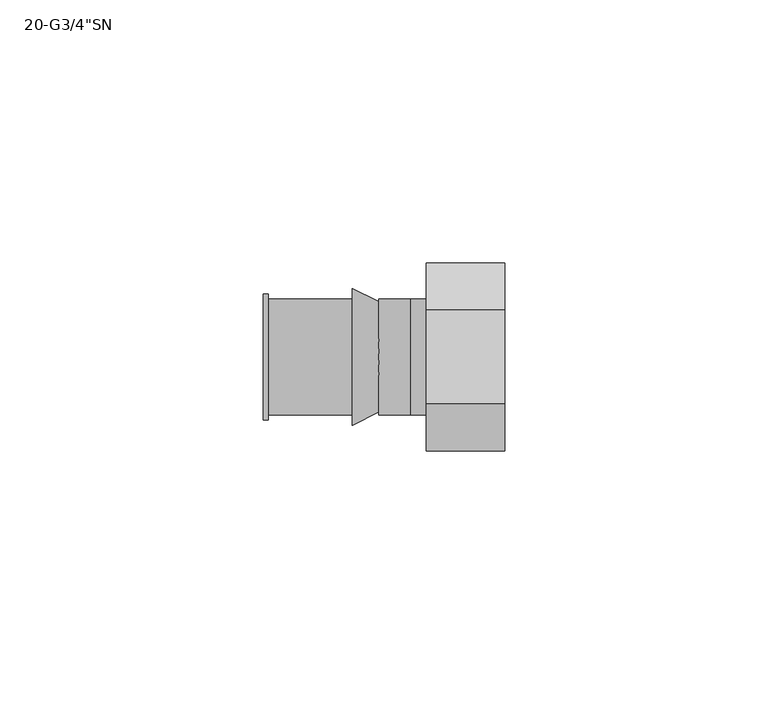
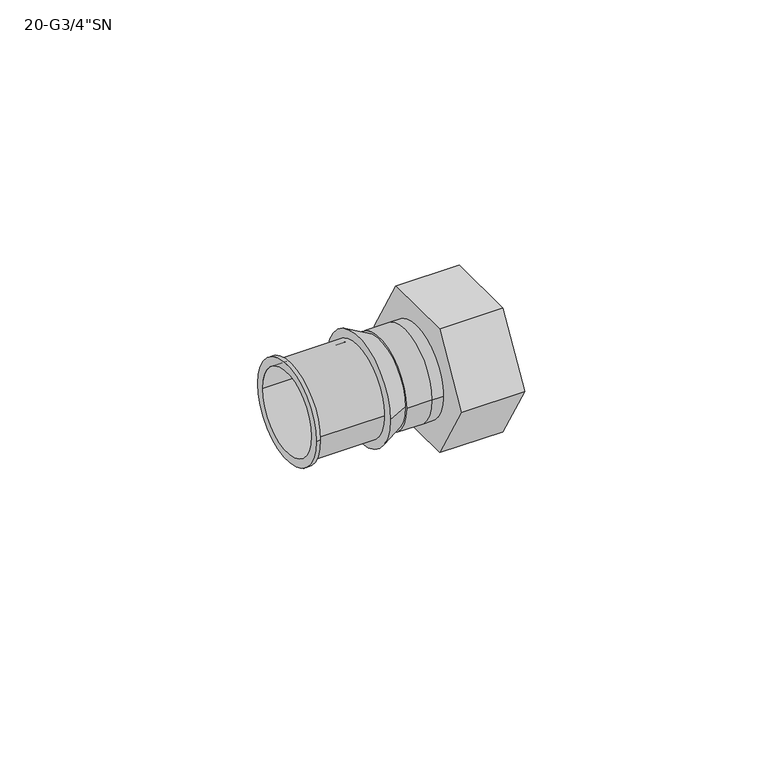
"""IFC4 building model written with IfcOpenShell, lengths in millimetres: pipe fitting geometry."""

from ifc_helpers import new_model, si_unit, frame, origin, place, context, project, spatial, polyline, circle_curve, source, transform, mapped, element, save
from ifc_brep_helpers import plane_surface, cylinder_surface, revolved_surface, advanced_brep


def pipe_fitting_98ce794a(model_context):
    return source(origin(), model_context, "Body", "AdvancedBrep", [
        advanced_brep(
        [(-3.0, -10.5, 0.0), (-3.0, 10.5, 0.0), (-3.0, -10.0, 0.0), (-3.0, 10.0, 0.0), (-8.0, -13.0, 0.0), (-8.0, 13.0, 0.0), (-8.0, 10.0, 0.0), (-8.0, -10.0, 0.0)],
        [
            (0, 1, circle_curve(frame((-3.0, 0.0, 0.0), z_axis=(1.0, 0.0, 0.0), x_axis=(0.0, -1.0, 0.0)), 10.5)),
            (1, 0, circle_curve(frame((-3.0, 0.0, 0.0), z_axis=(1.0, 0.0, 0.0), x_axis=(0.0, 1.0, 0.0)), 10.5)),
            (2, 3, circle_curve(frame((-3.0, 0.0, 0.0), z_axis=(-1.0, 0.0, 0.0), x_axis=(0.0, 1.0, 0.0)), 10.0)),
            (3, 2, circle_curve(frame((-3.0, 0.0, 0.0), z_axis=(-1.0, 0.0, 0.0), x_axis=(0.0, 1.0, 0.0)), 10.0)),
            (4, 5, circle_curve(frame((-8.0, 0.0, 0.0), z_axis=(-1.0, 0.0, 0.0), x_axis=(0.0, 1.0, 0.0)), 13.0)),
            (5, 4, circle_curve(frame((-8.0, 0.0, 0.0), z_axis=(-1.0, 0.0, 0.0), x_axis=(0.0, -1.0, 0.0)), 13.0)),
            (6, 7, circle_curve(frame((-8.0, 0.0, 0.0), z_axis=(1.0, 0.0, 0.0), x_axis=(0.0, 1.0, 0.0)), 10.0)),
            (7, 6, circle_curve(frame((-8.0, 0.0, 0.0), z_axis=(1.0, 0.0, 0.0), x_axis=(0.0, 1.0, 0.0)), 10.0)),
            (0, 4),
            (5, 1),
            (6, 3),
            (2, 7),
        ],
        [
            plane_surface(frame((-3.0, 0.0, 0.0), z_axis=(1.0, 0.0, 0.0), x_axis=(0.0, 0.0, -1.0))),
            plane_surface(frame((-8.0, 0.0, 0.0), z_axis=(-1.0, 0.0, 0.0), x_axis=(0.0, 0.0, -1.0))),
            revolved_surface(polyline([(-3.0, -10.5, 0.0), (-8.0, -13.0, 0.0)]), (18.0, 0.0, 0.0), (-1.0, 0.0, 0.0)),
            revolved_surface(polyline([(-3.0, 10.5, 0.0), (-8.0, 13.0, 0.0)]), (18.0, 0.0, 0.0), (-1.0, 0.0, 0.0)),
            revolved_surface(polyline([(-8.0, 10.0, 0.0), (-3.0, 10.0, 0.0)]), (-8.0, 0.0, 0.0), (-1.0, 0.0, 0.0)),
        ],
        [
            (0, [[1, 2], [3, 4]]),
            (1, [[5, 6], [7, 8]]),
            (2, [[-1, 9, -6, 10]]),
            (3, [[-2, -10, -5, -9]]),
            (4, [[11, -3, 12, -7]]),
            (4, [[-11, -8, -12, -4]]),
        ],
    ),
        advanced_brep(
        [(6.0, -17.8978583, 0.0), (6.0, -8.9489292, 15.5), (6.0, 8.9489292, 15.5), (6.0, 17.8978583, 0.0), (6.0, 8.9489292, -15.5), (6.0, -8.9489292, -15.5), (21.0, -17.8978583, 0.0), (21.0, -8.9489292, -15.5), (21.0, 8.9489292, -15.5), (21.0, 17.8978583, 0.0), (21.0, 8.9489292, 15.5), (21.0, -8.9489292, 15.5), (21.0, -11.0, 0.0), (21.0, 11.0, 0.0), (12.0, 11.0, 0.0), (12.0, -11.0, 0.0)],
        [
            (0, 1),
            (1, 2),
            (2, 3),
            (3, 4),
            (4, 5),
            (5, 0),
            (6, 7),
            (7, 8),
            (8, 9),
            (9, 10),
            (10, 11),
            (11, 6),
            (12, 13, circle_curve(frame((21.0, 0.0, 0.0), z_axis=(-1.0, 0.0, 0.0), x_axis=(0.0, -1.0, 0.0)), 11.0)),
            (13, 12, circle_curve(frame((21.0, 0.0, 0.0), z_axis=(-1.0, 0.0, 0.0), x_axis=(0.0, -1.0, 0.0)), 11.0)),
            (0, 6),
            (11, 1),
            (10, 2),
            (9, 3),
            (8, 4),
            (7, 5),
            (14, 15, circle_curve(frame((12.0, 0.0, 0.0), z_axis=(1.0, 0.0, 0.0), x_axis=(0.0, -1.0, 0.0)), 11.0)),
            (15, 14, circle_curve(frame((12.0, 0.0, 0.0), z_axis=(1.0, 0.0, 0.0), x_axis=(0.0, -1.0, 0.0)), 11.0)),
            (14, 13),
            (12, 15),
        ],
        [
            plane_surface(frame((6.0, 0.0, 0.0), z_axis=(-1.0, 0.0, 0.0), x_axis=(0.0, 0.0, 1.0))),
            plane_surface(frame((21.0, 0.0, 0.0), z_axis=(1.0, 0.0, 0.0), x_axis=(0.0, 0.0, 1.0))),
            plane_surface(frame((6.0, -17.8978583, 0.0), z_axis=(0.0, -0.8660254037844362, 0.5000000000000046), x_axis=(1.0, 0.0, 0.0))),
            plane_surface(frame((6.0, -8.9489292, 15.5), z_axis=(0.0, 0.0, 1.0), x_axis=(1.0, 0.0, 0.0))),
            plane_surface(frame((6.0, 8.9489292, 15.5), z_axis=(0.0, 0.8660254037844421, 0.4999999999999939), x_axis=(1.0, 0.0, 0.0))),
            plane_surface(frame((6.0, 17.8978583, 0.0), z_axis=(0.0, 0.8660254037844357, -0.5000000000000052), x_axis=(1.0, 0.0, 0.0))),
            plane_surface(frame((6.0, 8.9489292, -15.5), z_axis=(0.0, 0.0, -1.0), x_axis=(1.0, 0.0, 0.0))),
            plane_surface(frame((6.0, -8.9489292, -15.5), z_axis=(0.0, -0.8660254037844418, -0.4999999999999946), x_axis=(1.0, 0.0, 0.0))),
            plane_surface(frame((12.0, 0.0, 0.0), z_axis=(1.0, 0.0, 0.0), x_axis=(0.0, 0.0, 1.0))),
            revolved_surface(polyline([(21.0, -11.0, 0.0), (12.0, -11.0, 0.0)]), (21.0, 0.0, 0.0), (1.0, 0.0, 0.0)),
        ],
        [
            (0, [[1, 2, 3, 4, 5, 6]]),
            (1, [[7, 8, 9, 10, 11, 12], [13, 14]]),
            (2, [[-1, 15, -12, 16]]),
            (3, [[-2, -16, -11, 17]]),
            (4, [[-3, -17, -10, 18]]),
            (5, [[-4, -18, -9, 19]]),
            (6, [[-5, -19, -8, 20]]),
            (7, [[-6, -20, -7, -15]]),
            (8, [[21, 22]]),
            (9, [[-21, 23, -13, 24]]),
            (9, [[-22, -24, -14, -23]]),
        ],
    ),
        advanced_brep(
        [(-3.0, -11.0, 0.0), (-3.0, 11.0, 0.0), (3.0, 11.0, 0.0), (3.0, -11.0, 0.0), (6.0, -11.0, 0.0), (6.0, 11.0, 0.0)],
        [
            (0, 1, circle_curve(frame((-3.0, 0.0, 0.0), z_axis=(-1.0, 0.0, 0.0), x_axis=(0.0, 1.0, 0.0)), 11.0)),
            (1, 0, circle_curve(frame((-3.0, 0.0, 0.0), z_axis=(-1.0, 0.0, 0.0), x_axis=(0.0, 1.0, 0.0)), 11.0)),
            (1, 2),
            (2, 3, circle_curve(frame((3.0, 0.0, 0.0), z_axis=(-1.0, 0.0, 0.0), x_axis=(0.0, 1.0, 0.0)), 11.0)),
            (3, 0),
            (3, 2, circle_curve(frame((3.0, 0.0, 0.0), z_axis=(-1.0, 0.0, 0.0), x_axis=(0.0, 1.0, 0.0)), 11.0)),
            (4, 5, circle_curve(frame((6.0, 0.0, 0.0), z_axis=(1.0, 0.0, 0.0), x_axis=(0.0, 1.0, 0.0)), 11.0)),
            (5, 4, circle_curve(frame((6.0, 0.0, 0.0), z_axis=(1.0, 0.0, 0.0), x_axis=(0.0, 1.0, 0.0)), 11.0)),
            (5, 2),
            (3, 4),
        ],
        [
            plane_surface(frame((-3.0, 0.0, 0.0), z_axis=(-1.0, 0.0, 0.0), x_axis=(0.0, 0.0, 1.0))),
            cylinder_surface(frame((-3.0, 0.0, 0.0), z_axis=(-1.0, 0.0, 0.0), x_axis=(0.0, 1.0, 0.0)), 11.0),
            plane_surface(frame((6.0, 0.0, 0.0), z_axis=(1.0, 0.0, 0.0), x_axis=(0.0, 0.0, 1.0))),
            cylinder_surface(frame((3.0, 0.0, 0.0), z_axis=(-1.0, 0.0, 0.0), x_axis=(0.0, 1.0, 0.0)), 11.0),
        ],
        [
            (0, [[1, 2]]),
            (1, [[-2, 3, 4, 5]]),
            (1, [[-1, -5, 6, -3]]),
            (2, [[7, 8]]),
            (3, [[-8, 9, -6, 10]]),
            (3, [[-7, -10, -4, -9]]),
        ],
    ),
        advanced_brep(
        [(-25.0, -12.0, 0.0), (-25.0, 12.0, 0.0), (-25.0, -10.0, 0.0), (-25.0, 10.0, 0.0), (-8.0, -11.0, 0.0), (-8.0, 11.0, 0.0), (-8.0, -10.0, 0.0), (-8.0, 10.0, 0.0), (-24.0, 11.0, 0.0), (-24.0, -11.0, 0.0), (-24.0, -10.0, 0.0), (-24.0, 10.0, 0.0), (-24.0, -12.0, 0.0), (-24.0, 12.0, 0.0)],
        [
            (0, 1, circle_curve(frame((-25.0, 0.0, 0.0), z_axis=(-1.0, 0.0, 0.0), x_axis=(0.0, 1.0, 0.0)), 12.0)),
            (1, 0, circle_curve(frame((-25.0, 0.0, 0.0), z_axis=(-1.0, 0.0, 0.0), x_axis=(0.0, 1.0, 0.0)), 12.0)),
            (2, 3, circle_curve(frame((-25.0, 0.0, 0.0), z_axis=(1.0, 0.0, 0.0), x_axis=(0.0, 1.0, 0.0)), 10.0)),
            (3, 2, circle_curve(frame((-25.0, 0.0, 0.0), z_axis=(1.0, 0.0, 0.0), x_axis=(0.0, 1.0, 0.0)), 10.0)),
            (4, 5, circle_curve(frame((-8.0, 0.0, 0.0), z_axis=(1.0, 0.0, 0.0), x_axis=(0.0, 1.0, 0.0)), 11.0)),
            (5, 4, circle_curve(frame((-8.0, 0.0, 0.0), z_axis=(1.0, 0.0, 0.0), x_axis=(0.0, 1.0, 0.0)), 11.0)),
            (6, 7, circle_curve(frame((-8.0, 0.0, 0.0), z_axis=(-1.0, 0.0, 0.0), x_axis=(0.0, 1.0, 0.0)), 10.0)),
            (7, 6, circle_curve(frame((-8.0, 0.0, 0.0), z_axis=(-1.0, 0.0, 0.0), x_axis=(0.0, 1.0, 0.0)), 10.0)),
            (5, 8),
            (8, 9, circle_curve(frame((-24.0, 0.0, 0.0), z_axis=(1.0, 0.0, 0.0), x_axis=(0.0, 1.0, 0.0)), 11.0)),
            (9, 4),
            (9, 8, circle_curve(frame((-24.0, 0.0, 0.0), z_axis=(1.0, 0.0, 0.0), x_axis=(0.0, 1.0, 0.0)), 11.0)),
            (2, 10),
            (10, 6),
            (7, 11),
            (11, 3),
            (12, 13, circle_curve(frame((-24.0, 0.0, 0.0), z_axis=(1.0, 0.0, 0.0), x_axis=(0.0, 1.0, 0.0)), 12.0)),
            (13, 12, circle_curve(frame((-24.0, 0.0, 0.0), z_axis=(1.0, 0.0, 0.0), x_axis=(0.0, 1.0, 0.0)), 12.0)),
            (0, 12),
            (13, 1),
        ],
        [
            plane_surface(frame((-25.0, 0.0, 0.0), z_axis=(-1.0, 0.0, 0.0), x_axis=(0.0, 0.0, 1.0))),
            plane_surface(frame((-8.0, 0.0, 0.0), z_axis=(1.0, 0.0, 0.0), x_axis=(0.0, 0.0, 1.0))),
            cylinder_surface(frame((-25.0, 0.0, 0.0), z_axis=(-1.0, 0.0, 0.0), x_axis=(0.0, 1.0, 0.0)), 11.0),
            revolved_surface(polyline([(-8.0, 10.0, 0.0), (-25.0, 10.0, 0.0)]), (-25.0, 0.0, 0.0), (1.0, 0.0, 0.0)),
            plane_surface(frame((-24.0, 0.0, 0.0), z_axis=(1.0, 0.0, 0.0), x_axis=(0.0, 0.0, 1.0))),
            cylinder_surface(frame((-25.0, 0.0, 0.0), z_axis=(-1.0, 0.0, 0.0), x_axis=(0.0, 1.0, 0.0)), 12.0),
        ],
        [
            (0, [[1, 2], [3, 4]]),
            (1, [[5, 6], [7, 8]]),
            (2, [[-6, 9, 10, 11]]),
            (2, [[-5, -11, 12, -9]]),
            (3, [[-3, 13, 14, -8, 15, 16]]),
            (3, [[-4, -16, -15, -7, -14, -13]]),
            (4, [[17, 18], [-10, -12]]),
            (5, [[-1, 19, -18, 20]]),
            (5, [[-2, -20, -17, -19]]),
        ],
    ),
    ])


if __name__ == "__main__":
    model = new_model("IFC4")
    model_context = context("Model", 3, world=origin())
    ifc_project = project(units=[si_unit("LENGTHUNIT", "METRE", prefix="MILLI")], contexts=[model_context])
    site = spatial("IfcSite", under=ifc_project)
    building = spatial("IfcBuilding", under=site)
    placement = place(None, origin())
    pipe_fitting_shape = pipe_fitting_98ce794a(model_context)
    element("IfcPipeFitting", 1, ObjectType="SuperPipe_AdapterSN_MAX_G : 20-G3/4\"SN", at=placement, inside=building, context=model_context, shape_type="MappedRepresentation", body=[
        mapped(pipe_fitting_shape, transform((0.0, 0.0, 0.0), x_axis=(1.0, 0.0, 0.0), y_axis=(0.0, 1.0, 0.0), z_axis=(0.0, 0.0, 1.0))),
    ])
    save(model, "model.ifc")
